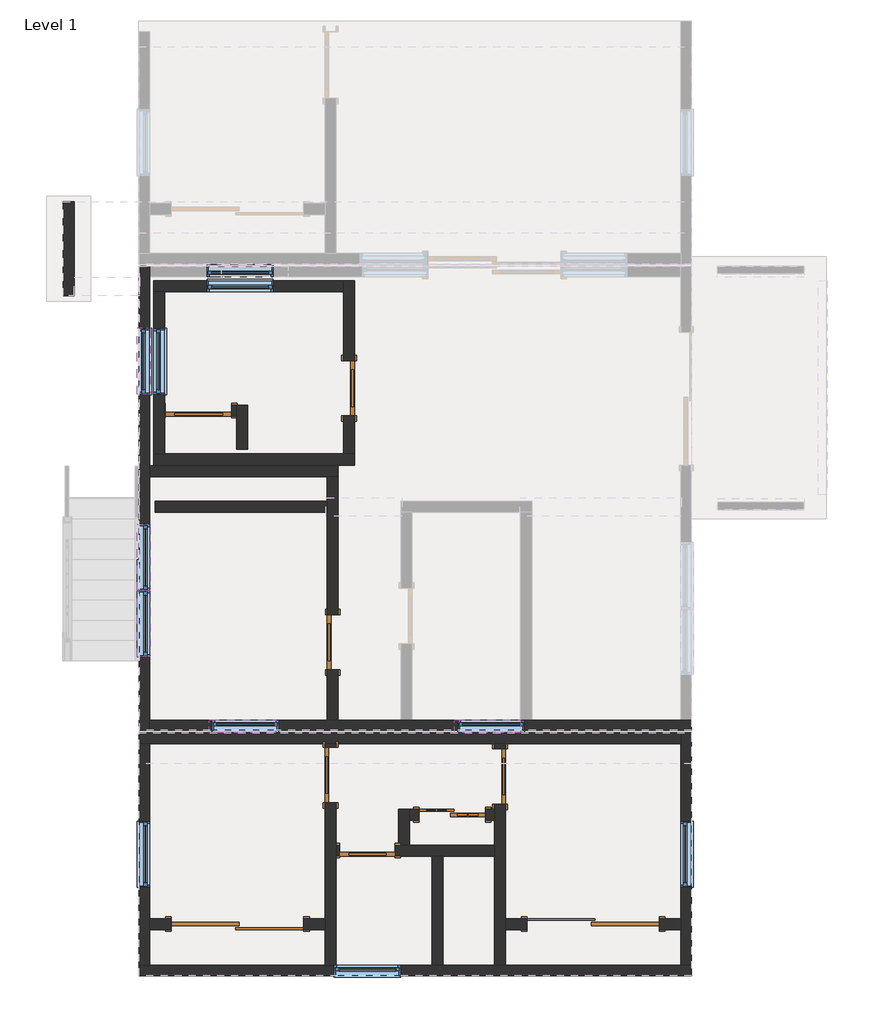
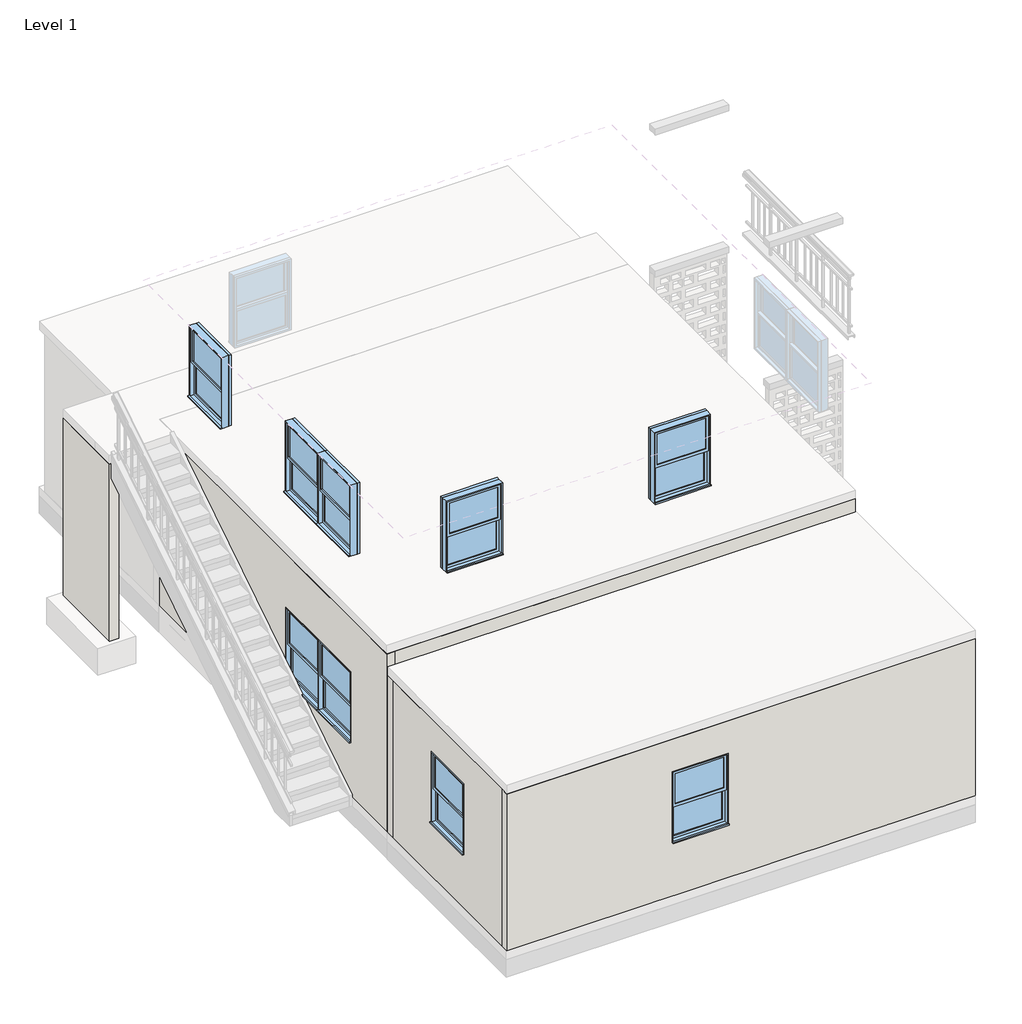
# One storey, part 1 of 3: 24 walls, 16 windows, 9 doors.
"""IFC4 building model written with IfcOpenShell, lengths in millimetres."""

from ifc_helpers import new_model, si_unit, frame, origin, place, context, project, spatial, polyline, outline, extrude, faceted_brep, transform, mapped, element, save
from components import door_de661ade, door_8a7407ed, door_d17baa25, door_dc43bb5d, door_789d9d7f, window_f4e95f5c, window_d6fe7540

model = new_model("IFC4")

# Units and contexts
model_context = context("Model", 3, world=origin())
ifc_project = project(units=[si_unit("LENGTHUNIT", "METRE", prefix="MILLI")], contexts=[model_context])

# Site, building, storey
site = spatial("IfcSite", under=ifc_project)
building = spatial("IfcBuilding", under=site)
storey = spatial("IfcBuildingStorey", under=building, Name="Level 1", Elevation=0.0)

# Doors
placement = place(None, origin())
door_shape = door_de661ade(model_context)
element("IfcDoor", 1, ObjectType="Single-Panel 1 : 30\" x 80\"", at=placement, inside=storey, context=model_context, shape_type="MappedRepresentation", body=[
    mapped(door_shape, transform((-8634.0790766, -20442.891375, -101.6), x_axis=(0.0, -1.0, 0.0), y_axis=(1.0, 0.0, 0.0), z_axis=(0.0, 0.0, 1.0))),
])
element("IfcDoor", 2, ObjectType="Single-Panel 1 : 30\" x 80\"", at=placement, inside=storey, context=model_context, shape_type="MappedRepresentation", body=[
    mapped(door_shape, transform((-8857.5990766, -23941.5763369, -101.6), x_axis=(0.0, 1.0, 0.0), y_axis=(-1.0, 0.0, 0.0), z_axis=(0.0, 0.0, 1.0))),
])
element("IfcDoor", 3, ObjectType="Single-Panel 1 : 30\" x 80\"", at=placement, inside=storey, context=model_context, shape_type="MappedRepresentation", body=[
    mapped(door_shape, transform((-8380.0790766, -26811.7763369, -101.6), x_axis=(-1.0, 0.0, 0.0), y_axis=(0.0, -1.0, 0.0), z_axis=(0.0, 0.0, 1.0))),
])
element("IfcDoor", 4, ObjectType="Single-Panel 1 : 30\" x 80\"", at=placement, inside=storey, context=model_context, shape_type="MappedRepresentation", body=[
    mapped(door_shape, transform((-6551.2790766, -25790.9824702, -101.6), x_axis=(0.0, -1.0, 0.0), y_axis=(1.0, 0.0, 0.0), z_axis=(0.0, 0.0, 1.0))),
])
door_2_shape = door_8a7407ed(model_context)
element("IfcDoor", 5, ObjectType="Single-Panel 1 : 30\" x 80\"", at=placement, inside=storey, context=model_context, shape_type="MappedRepresentation", body=[
    mapped(door_2_shape, transform((-8888.0790766, -25770.3763369, -101.6), x_axis=(0.0, -1.0, 0.0), y_axis=(1.0, 0.0, 0.0), z_axis=(0.0, 0.0, 1.0))),
])
door_3_shape = door_d17baa25(model_context)
element("IfcDoor", 6, ObjectType="Single-Panel 1 : 36\" x 80\"", at=placement, inside=storey, context=model_context, shape_type="MappedRepresentation", body=[
    mapped(door_3_shape, transform((-10707.9890766, -20750.7013369, -101.6), x_axis=(-1.0, 0.0, 0.0), y_axis=(0.0, -1.0, 0.0), z_axis=(0.0, 0.0, 1.0))),
])
door_4_shape = door_dc43bb5d(model_context)
element("IfcDoor", 7, ObjectType="Sliding-2 Panel 2 : 36\" x 78\" 2", at=placement, inside=storey, context=model_context, shape_type="MappedRepresentation", body=[
    mapped(door_4_shape, transform((-7211.6790766, -26446.5886036, -101.6), x_axis=(1.0, 0.0, 0.0), y_axis=(0.0, 1.0, 0.0), z_axis=(0.0, 0.0, 1.0))),
])
door_5_shape = door_789d9d7f(model_context)
element("IfcDoor", 8, ObjectType="Sliding-2 Panel 2 : 72\" x 78\"", at=placement, inside=storey, context=model_context, shape_type="MappedRepresentation", body=[
    mapped(door_5_shape, transform((-5268.5790766, -27951.6013369, -101.6), x_axis=(1.0, 0.0, 0.0), y_axis=(0.0, 1.0, 0.0), z_axis=(0.0, 0.0, 1.0))),
])
element("IfcDoor", 9, ObjectType="Sliding-2 Panel 2 : 72\" x 78\"", at=placement, inside=storey, context=model_context, shape_type="MappedRepresentation", body=[
    mapped(door_5_shape, transform((-10170.7790766, -27697.6013369, -101.6), x_axis=(-1.0, 0.0, 0.0), y_axis=(0.0, -1.0, 0.0), z_axis=(0.0, 0.0, 1.0))),
])

# Walls
element("IfcWall", 10, ObjectType="CWXX - 6in CIP Conc", at=placement, inside=storey, context=model_context, shape_type="Brep", body=[
    faceted_brep([(-11382.0415766, -21665.1013369, -101.6), (-8933.7990766, -21665.1013369, -101.6), (-8781.3990766, -21665.1013369, -101.6), (-8781.3990766, -21665.1013369, 2336.8), (-8933.7990766, -21665.1013369, 2336.8), (-11382.0415766, -21665.1013369, 2336.8), (-11382.0415766, -21512.7013369, -101.6), (-11382.0415766, -21512.7013369, 2336.8), (-8781.3990766, -21512.7013369, 2336.8), (-8781.3990766, -21512.7013369, -101.6)], [[[0, 1, 2, 3, 4, 5]], [[6, 7, 8, 9]], [[2, 1, 0, 6, 9]], [[5, 4, 3, 8, 7]], [[3, 2, 9, 8]], [[0, 5, 7, 6]]]),
])
element("IfcWall", 11, ObjectType="CWXX - 6in CIP Conc", at=placement, inside=storey, context=model_context, shape_type="Brep", body=[
    faceted_brep([(-8933.7990766, -21665.1013369, -101.6), (-8933.7990766, -22001.6513369, -101.6), (-8933.7990766, -22154.0513369, -101.6), (-8933.7990766, -23560.5763369, -101.6), (-8933.7990766, -23560.5763369, 1930.4), (-8933.7990766, -24322.5763369, 1930.4), (-8933.7990766, -24322.5763369, -101.6), (-8933.7990766, -25013.1388369, -101.6), (-8933.7990766, -25013.1388369, 2336.8), (-8933.7990766, -21665.1013369, 2336.8), (-8781.3990766, -23560.5763369, 1930.4), (-8781.3990766, -23560.5763369, -101.6), (-8781.3990766, -21665.1013369, -101.6), (-8781.3990766, -21665.1013369, 2336.8), (-8781.3990766, -25013.1388369, 2336.8), (-8781.3990766, -25013.1388369, -101.6), (-8781.3990766, -24322.5763369, -101.6), (-8781.3990766, -24322.5763369, 1930.4)], [[[0, 1, 2, 3, 4, 5, 6, 7, 8, 9]], [[10, 11, 12, 13, 14, 15, 16, 17]], [[16, 15, 7, 6]], [[12, 11, 3, 2, 1, 0]], [[9, 8, 14, 13]], [[0, 9, 13, 12]], [[4, 3, 11, 10]], [[5, 4, 10, 17]], [[6, 5, 17, 16]], [[8, 7, 15, 14]]]),
])
element("IfcWall", 12, ObjectType="CWXX - 6in CMU", at=placement, inside=storey, context=model_context, shape_type="Brep", body=[
    faceted_brep([(-11326.4790766, -19115.5763369, -101.6), (-11174.0790766, -19115.5763369, -101.6), (-8710.2790766, -19115.5763369, -101.6), (-8710.2790766, -19115.5763369, 2336.8), (-11174.0790766, -19115.5763369, 2336.8), (-11326.4790766, -19115.5763369, 2336.8), (-9676.4950766, -19115.5763369, 1965.5500159), (-9676.4950766, -19115.5763369, 746.3500159), (-10590.8950766, -19115.5763369, 746.3500159), (-10590.8950766, -19115.5763369, 1965.5500159), (-11326.4790766, -18963.1763369, -101.6), (-11326.4790766, -18963.1763369, 2336.8), (-8710.2790766, -18963.1763369, 2336.8), (-8710.2790766, -18963.1763369, -101.6), (-9676.4950766, -18963.1763369, 1965.5500159), (-10590.8950766, -18963.1763369, 1965.5500159), (-10590.8950766, -18963.1763369, 746.3500159), (-9676.4950766, -18963.1763369, 746.3500159)], [[[0, 1, 2, 3, 4, 5], [6, 7, 8, 9]], [[10, 11, 12, 13], [14, 15, 16, 17]], [[2, 1, 0, 10, 13]], [[5, 4, 3, 12, 11]], [[0, 5, 11, 10]], [[3, 2, 13, 12]], [[7, 6, 14, 17]], [[8, 7, 17, 16]], [[9, 8, 16, 15]], [[6, 9, 15, 14]]]),
])
element("IfcWall", 13, ObjectType="CWXX - 6in CMU", at=placement, inside=storey, context=model_context, shape_type="Brep", body=[
    faceted_brep([(-11174.0790766, -21347.6013369, -101.6), (-11174.0790766, -20826.9013369, -101.6), (-11174.0790766, -20674.5013369, -101.6), (-11174.0790766, -19115.5763369, -101.6), (-11174.0790766, -19115.5763369, 2336.8), (-11174.0790766, -20674.5013369, 2336.8), (-11174.0790766, -20826.9013369, 2336.8), (-11174.0790766, -21347.6013369, 2336.8), (-11174.0790766, -20530.0388369, 812.8), (-11174.0790766, -20530.0388369, 2032.0), (-11174.0790766, -19615.6388369, 2032.0), (-11174.0790766, -19615.6388369, 812.8), (-11326.4790766, -19115.5763369, -101.6), (-11326.4790766, -21347.6013369, -101.6), (-11326.4790766, -21347.6013369, 2336.8), (-11326.4790766, -19115.5763369, 2336.8), (-11326.4790766, -20530.0388369, 2032.0), (-11326.4790766, -20530.0388369, 812.8), (-11326.4790766, -19615.6388369, 812.8), (-11326.4790766, -19615.6388369, 2032.0)], [[[0, 1, 2, 3, 4, 5, 6, 7], [8, 9, 10, 11]], [[12, 13, 14, 15], [16, 17, 18, 19]], [[3, 2, 1, 0, 13, 12]], [[7, 6, 5, 4, 15, 14]], [[4, 3, 12, 15]], [[17, 16, 9, 8]], [[18, 17, 8, 11]], [[19, 18, 11, 10]], [[16, 19, 10, 9]], [[0, 7, 14, 13]]]),
])
element("IfcWall", 14, ObjectType="CWXX - 6in CIP Conc", at=placement, inside=storey, context=model_context, shape_type="Brep", body=[
    faceted_brep([(-8811.8790766, -28391.3388369, -101.6), (-8811.8790766, -26887.9763369, -101.6), (-8811.8790766, -26735.5763369, -101.6), (-8811.8790766, -26151.3763369, -101.6), (-8811.8790766, -26151.3763369, 1930.4), (-8811.8790766, -25389.3763369, 1930.4), (-8811.8790766, -25389.3763369, -101.6), (-8811.8790766, -25338.5763369, -101.6), (-8811.8790766, -25338.5763369, 2336.8), (-8811.8790766, -26735.5763369, 2336.8), (-8811.8790766, -26887.9763369, 2336.8), (-8811.8790766, -28391.3388369, 2336.8), (-8964.2790766, -26151.3763369, 1930.4), (-8964.2790766, -26151.3763369, -101.6), (-8964.2790766, -27748.4013369, -101.6), (-8964.2790766, -27900.8013369, -101.6), (-8964.2790766, -28391.3388369, -101.6), (-8964.2790766, -28391.3388369, 2336.8), (-8964.2790766, -27900.8013369, 2336.8), (-8964.2790766, -27748.4013369, 2336.8), (-8964.2790766, -25338.5763369, 2336.8), (-8964.2790766, -25338.5763369, -101.6), (-8964.2790766, -25389.3763369, -101.6), (-8964.2790766, -25389.3763369, 1930.4)], [[[0, 1, 2, 3, 4, 5, 6, 7, 8, 9, 10, 11]], [[12, 13, 14, 15, 16, 17, 18, 19, 20, 21, 22, 23]], [[22, 21, 7, 6]], [[16, 15, 14, 13, 3, 2, 1, 0]], [[11, 10, 9, 8, 20, 19, 18, 17]], [[4, 3, 13, 12]], [[5, 4, 12, 23]], [[6, 5, 23, 22]], [[0, 11, 17, 16]], [[8, 7, 21, 20]]]),
])
element("IfcWall", 15, ObjectType="CWXX - 6in CIP Conc", at=placement, inside=storey, context=model_context, shape_type="SweptSolid", body=[
    extrude(outline(polyline([(-7338.6790766, -26887.9763369), (-7338.6790766, -28391.3388369), (-7491.0790766, -28391.3388369), (-7491.0790766, -26887.9763369), (-7338.6790766, -26887.9763369)])), frame((0.0, 0.0, -101.6), z_axis=(0.0, 0.0, 1.0), x_axis=(1.0, 0.0, 0.0)), (0.0, 0.0, 1.0), 2438.4),
])
element("IfcWall", 16, ObjectType="CWXX - 6in CIP Conc", at=placement, inside=storey, context=model_context, shape_type="Brep", body=[
    faceted_brep([(-6475.0790766, -28391.3388369, -101.6), (-6475.0790766, -27900.8013369, -101.6), (-6475.0790766, -27748.4013369, -101.6), (-6475.0790766, -26171.9824702, -101.6), (-6475.0790766, -26171.9824702, 1930.4), (-6475.0790766, -25409.9824702, 1930.4), (-6475.0790766, -25409.9824702, -101.6), (-6475.0790766, -25338.5763369, -101.6), (-6475.0790766, -25338.5763369, 2336.8), (-6475.0790766, -27748.4013369, 2336.8), (-6475.0790766, -27900.8013369, 2336.8), (-6475.0790766, -28391.3388369, 2336.8), (-6627.4790766, -26171.9824702, 1930.4), (-6627.4790766, -26171.9824702, -101.6), (-6627.4790766, -26243.3886036, -101.6), (-6627.4790766, -26395.7886036, -101.6), (-6627.4790766, -26735.5763369, -101.6), (-6627.4790766, -26887.9763369, -101.6), (-6627.4790766, -28391.3388369, -101.6), (-6627.4790766, -28391.3388369, 2336.8), (-6627.4790766, -26887.9763369, 2336.8), (-6627.4790766, -26735.5763369, 2336.8), (-6627.4790766, -26395.7886036, 2336.8), (-6627.4790766, -26243.3886036, 2336.8), (-6627.4790766, -25338.5763369, 2336.8), (-6627.4790766, -25338.5763369, -101.6), (-6627.4790766, -25409.9824702, -101.6), (-6627.4790766, -25409.9824702, 1930.4)], [[[0, 1, 2, 3, 4, 5, 6, 7, 8, 9, 10, 11]], [[12, 13, 14, 15, 16, 17, 18, 19, 20, 21, 22, 23, 24, 25, 26, 27]], [[26, 25, 7, 6]], [[18, 17, 16, 15, 14, 13, 3, 2, 1, 0]], [[11, 10, 9, 8, 24, 23, 22, 21, 20, 19]], [[4, 3, 13, 12]], [[5, 4, 12, 27]], [[6, 5, 27, 26]], [[0, 11, 19, 18]], [[8, 7, 25, 24]]]),
])
element("IfcWall", 17, ObjectType="CWXX - 6in CIP Conc", at=placement, inside=storey, context=model_context, shape_type="Brep", body=[
    faceted_brep([(-8761.0790766, -26735.5763369, 1930.4), (-8761.0790766, -26735.5763369, -101.6), (-8811.8790766, -26735.5763369, -101.6), (-8811.8790766, -26735.5763369, 2336.8), (-7948.2790766, -26735.5763369, 2336.8), (-7795.8790766, -26735.5763369, 2336.8), (-6627.4790766, -26735.5763369, 2336.8), (-6627.4790766, -26735.5763369, -101.6), (-7795.8790766, -26735.5763369, -101.6), (-7948.2790766, -26735.5763369, -101.6), (-7999.0790766, -26735.5763369, -101.6), (-7999.0790766, -26735.5763369, 1930.4), (-8811.8790766, -26887.9763369, -101.6), (-8761.0790766, -26887.9763369, -101.6), (-8761.0790766, -26887.9763369, 1930.4), (-7999.0790766, -26887.9763369, 1930.4), (-7999.0790766, -26887.9763369, -101.6), (-7491.0790766, -26887.9763369, -101.6), (-7338.6790766, -26887.9763369, -101.6), (-6627.4790766, -26887.9763369, -101.6), (-6627.4790766, -26887.9763369, 2336.8), (-7338.6790766, -26887.9763369, 2336.8), (-7491.0790766, -26887.9763369, 2336.8), (-8811.8790766, -26887.9763369, 2336.8)], [[[0, 1, 2, 3, 4, 5, 6, 7, 8, 9, 10, 11]], [[12, 13, 14, 15, 16, 17, 18, 19, 20, 21, 22, 23]], [[2, 1, 13, 12]], [[10, 9, 8, 7, 19, 18, 17, 16]], [[6, 5, 4, 3, 23, 22, 21, 20]], [[7, 6, 20, 19]], [[3, 2, 12, 23]], [[14, 13, 1, 0]], [[15, 14, 0, 11]], [[16, 15, 11, 10]]]),
])
element("IfcWall", 18, ObjectType="CWXX - 6in CIP Conc", at=placement, inside=storey, context=model_context, shape_type="Brep", body=[
    faceted_brep([(-7948.2790766, -26243.3886036, -101.6), (-7948.2790766, -26735.5763369, -101.6), (-7948.2790766, -26735.5763369, 2336.8), (-7948.2790766, -26243.3886036, 2336.8), (-7795.8790766, -26243.3886036, -101.6), (-7795.8790766, -26243.3886036, 2336.8), (-7795.8790766, -26395.7886036, 2336.8), (-7795.8790766, -26735.5763369, 2336.8), (-7795.8790766, -26735.5763369, -101.6), (-7795.8790766, -26395.7886036, -101.6)], [[[0, 1, 2, 3]], [[4, 5, 6, 7, 8, 9]], [[1, 0, 4, 9, 8]], [[3, 2, 7, 6, 5]], [[2, 1, 8, 7]], [[0, 3, 5, 4]]]),
])
element("IfcWall", 19, ObjectType="CWXX - 6in CIP Conc", at=placement, inside=storey, context=model_context, shape_type="SweptSolid", body=[
    extrude(outline(polyline([(1879.6, -6754.4790766), (-101.6, -6754.4790766), (-101.6, -6627.4790766), (2336.8, -6627.4790766), (2336.8, -7795.8790766), (-101.6, -7795.8790766), (-101.6, -7668.8790766), (1879.6, -7668.8790766), (1879.6, -6754.4790766)])), frame((0.0, -26395.7886036, 0.0), z_axis=(0.0, 1.0, 0.0), x_axis=(0.0, 0.0, 1.0)), (0.0, 0.0, 1.0), 152.4),
])
element("IfcWall", 20, ObjectType="CWXX - 6in CIP Conc", at=placement, inside=storey, context=model_context, shape_type="SweptSolid", body=[
    extrude(outline(polyline([(2032.0, -4354.1790766), (-101.6, -4354.1790766), (-101.6, -4057.3165766), (2336.8, -4057.3165766), (2336.8, -6475.0790766), (-101.6, -6475.0790766), (-101.6, -6182.9790766), (2032.0, -6182.9790766), (2032.0, -4354.1790766)])), frame((0.0, -27900.8013369, 0.0), z_axis=(0.0, 1.0, 0.0), x_axis=(0.0, 0.0, 1.0)), (0.0, 0.0, 1.0), 152.4),
])
element("IfcWall", 21, ObjectType="CWXX - 6in CIP Conc", at=placement, inside=storey, context=model_context, shape_type="SweptSolid", body=[
    extrude(outline(polyline([(-101.6, -11382.0415766), (-101.6, -11085.1790766), (2032.0, -11085.1790766), (2032.0, -9256.3790766), (-101.6, -9256.3790766), (-101.6, -8964.2790766), (2336.8, -8964.2790766), (2336.8, -11382.0415766), (-101.6, -11382.0415766)])), frame((0.0, -27900.8013369, 0.0), z_axis=(0.0, 1.0, 0.0), x_axis=(0.0, 0.0, 1.0)), (0.0, 0.0, 1.0), 152.4),
])
element("IfcWall", 22, ObjectType="CWXX - 6in CIP Conc", at=placement, inside=storey, context=model_context, shape_type="Brep", body=[
    faceted_brep([(-10183.4790766, -20674.5013369, -101.6), (-10183.4790766, -20826.9013369, -101.6), (-10183.4790766, -21284.1013369, -101.6), (-10183.4790766, -21284.1013369, 2336.8), (-10183.4790766, -20826.9013369, 2336.8), (-10183.4790766, -20674.5013369, 2336.8), (-10031.0790766, -20674.5013369, -101.6), (-10031.0790766, -20674.5013369, 2336.8), (-10031.0790766, -21284.1013369, 2336.8), (-10031.0790766, -21284.1013369, -101.6)], [[[0, 1, 2, 3, 4, 5]], [[6, 7, 8, 9]], [[2, 1, 0, 6, 9]], [[3, 2, 9, 8]], [[5, 4, 3, 8, 7]], [[0, 5, 7, 6]]]),
])
element("IfcWall", 23, ObjectType="CWXX - 6in CIP Conc", at=placement, inside=storey, context=model_context, shape_type="SweptSolid", body=[
    extrude(outline(polyline([(-101.6, -11174.0790766), (-101.6, -11165.1890766), (1930.4, -11165.1890766), (1930.4, -10250.7890766), (-101.6, -10250.7890766), (-101.6, -10183.4790766), (2336.8, -10183.4790766), (2336.8, -11174.0790766), (-101.6, -11174.0790766)])), frame((0.0, -20826.9013369, 0.0), z_axis=(0.0, 1.0, 0.0), x_axis=(0.0, 0.0, 1.0)), (0.0, 0.0, 1.0), 152.4),
])
element("IfcWall", 24, ObjectType="CWXX - 6in CIP Conc", at=placement, inside=storey, context=model_context, shape_type="SweptSolid", body=[
    extrude(outline(polyline([(-8933.7990766, -22154.0513369), (-11308.6990766, -22154.0513369), (-11308.6990766, -22001.6513369), (-8933.7990766, -22001.6513369), (-8933.7990766, -22154.0513369)])), frame((0.0, 0.0, -101.6), z_axis=(0.0, 0.0, 1.0), x_axis=(1.0, 0.0, 0.0)), (0.0, 0.0, 1.0), 2794.0),
])
element("IfcWall", 25, ObjectType="CWXX - 6in CMU", at=placement, inside=storey, context=model_context, shape_type="Brep", body=[
    faceted_brep([(-4057.3165766, -25186.1763369, -101.6), (-11524.9165766, -25186.1763369, -101.6), (-11524.9165766, -25186.1763369, 2590.8), (-4057.3165766, -25186.1763369, 2590.8), (-4057.3165766, -25338.5763369, -101.6), (-4057.3165766, -25338.5763369, 2590.8), (-11382.0415766, -25338.5763369, 2590.8), (-11524.9165766, -25338.5763369, 2590.8), (-11524.9165766, -25338.5763369, -101.6), (-11382.0415766, -25338.5763369, -101.6), (-8964.2790766, -25338.5763369, -101.6), (-8811.8790766, -25338.5763369, -101.6), (-6627.4790766, -25338.5763369, -101.6), (-6475.0790766, -25338.5763369, -101.6)], [[[0, 1, 2, 3]], [[4, 5, 6, 7, 8, 9, 10, 11, 12, 13]], [[1, 0, 4, 13, 12, 11, 10, 9, 8]], [[3, 2, 7, 6, 5]], [[0, 3, 5, 4]], [[2, 1, 8, 7]]]),
])
element("IfcWall", 26, ObjectType="CWXX - 6in CIP Conc", at=placement, inside=storey, context=model_context, shape_type="SweptSolid", body=[
    extrude(outline(polyline([(-12574.2540766, -19168.0320791), (-12574.2540766, -17872.6320791), (-12421.8540766, -17872.6320791), (-12421.8540766, -19168.0320791), (-12574.2540766, -19168.0320791)])), frame((0.0, 0.0, -101.6), z_axis=(0.0, 0.0, 1.0), x_axis=(1.0, 0.0, 0.0)), (0.0, 0.0, 1.0), 3048.0),
])
element("IfcWall", 27, ObjectType="CWXX - 6in CMU", at=placement, inside=storey, context=model_context, shape_type="Brep", body=[
    faceted_brep([(-8557.8790766, -21347.6013369, -101.6), (-8710.2790766, -21347.6013369, -101.6), (-11174.0790766, -21347.6013369, -101.6), (-11326.4790766, -21347.6013369, -101.6), (-11326.4790766, -21347.6013369, 2336.8), (-11174.0790766, -21347.6013369, 2336.8), (-8710.2790766, -21347.6013369, 2336.8), (-8557.8790766, -21347.6013369, 2336.8), (-8557.8790766, -21500.0013369, -101.6), (-8557.8790766, -21500.0013369, 2336.8), (-11326.4790766, -21500.0013369, 2336.8), (-11326.4790766, -21500.0013369, -101.6)], [[[0, 1, 2, 3, 4, 5, 6, 7]], [[8, 9, 10, 11]], [[3, 2, 1, 0, 8, 11]], [[7, 6, 5, 4, 10, 9]], [[4, 3, 11, 10]], [[0, 7, 9, 8]]]),
])
element("IfcWall", 28, ObjectType="CWXX - 6in CMU", at=placement, inside=storey, context=model_context, shape_type="Brep", body=[
    faceted_brep([(-8710.2790766, -20823.891375, 1930.4), (-8710.2790766, -20823.891375, -101.6), (-8710.2790766, -21347.6013369, -101.6), (-8710.2790766, -21347.6013369, 2336.8), (-8710.2790766, -19115.5763369, 2336.8), (-8710.2790766, -18963.1763369, 2336.8), (-8710.2790766, -18963.1763369, -101.6), (-8710.2790766, -19115.5763369, -101.6), (-8710.2790766, -20061.891375, -101.6), (-8710.2790766, -20061.891375, 1930.4), (-8557.8790766, -21347.6013369, -101.6), (-8557.8790766, -20823.891375, -101.6), (-8557.8790766, -20823.891375, 1930.4), (-8557.8790766, -20061.891375, 1930.4), (-8557.8790766, -20061.891375, -101.6), (-8557.8790766, -18963.1763369, -101.6), (-8557.8790766, -18963.1763369, 2336.8), (-8557.8790766, -21347.6013369, 2336.8)], [[[0, 1, 2, 3, 4, 5, 6, 7, 8, 9]], [[10, 11, 12, 13, 14, 15, 16, 17]], [[2, 1, 11, 10]], [[8, 7, 6, 15, 14]], [[5, 4, 3, 17, 16]], [[12, 11, 1, 0]], [[13, 12, 0, 9]], [[14, 13, 9, 8]], [[6, 5, 16, 15]], [[3, 2, 10, 17]]]),
])
element("IfcWall", 29, ObjectType="6\" CMU", at=placement, inside=storey, context=model_context, shape_type="Brep", body=[
    faceted_brep([(-11524.9165766, -28534.2138369, -101.6), (-3914.4415766, -28534.2138369, -101.6), (-3914.4415766, -28534.2138369, 2590.8), (-11524.9165766, -28534.2138369, 2590.8), (-8837.2790766, -28534.2138369, 2032.0), (-7922.8790766, -28534.2138369, 2032.0), (-7922.8790766, -28534.2138369, 812.8), (-8837.2790766, -28534.2138369, 812.8), (-11524.9165766, -28391.3388369, -101.6), (-11524.9165766, -28391.3388369, 2590.8), (-11382.0415766, -28391.3388369, 2590.8), (-4057.3165766, -28391.3388369, 2590.8), (-3914.4415766, -28391.3388369, 2590.8), (-3914.4415766, -28391.3388369, -101.6), (-4057.3165766, -28391.3388369, -101.6), (-6475.0790766, -28391.3388369, -101.6), (-6627.4790766, -28391.3388369, -101.6), (-7338.6790766, -28391.3388369, -101.6), (-7491.0790766, -28391.3388369, -101.6), (-8811.8790766, -28391.3388369, -101.6), (-8964.2790766, -28391.3388369, -101.6), (-11382.0415766, -28391.3388369, -101.6), (-8837.2790766, -28391.3388369, 2032.0), (-8837.2790766, -28391.3388369, 812.8), (-7922.8790766, -28391.3388369, 812.8), (-7922.8790766, -28391.3388369, 2032.0)], [[[0, 1, 2, 3], [4, 5, 6, 7]], [[8, 9, 10, 11, 12, 13, 14, 15, 16, 17, 18, 19, 20, 21], [22, 23, 24, 25]], [[1, 0, 8, 21, 20, 19, 18, 17, 16, 15, 14, 13]], [[3, 2, 12, 11, 10, 9]], [[2, 1, 13, 12]], [[0, 3, 9, 8]], [[23, 22, 4, 7]], [[24, 23, 7, 6]], [[25, 24, 6, 5]], [[22, 25, 5, 4]]]),
])
element("IfcWall", 30, ObjectType="6\" CMU", at=placement, inside=storey, context=model_context, shape_type="Brep", body=[
    faceted_brep([(-3914.4415766, -28391.3388369, -101.6), (-3914.4415766, -25186.1763369, -101.6), (-3914.4415766, -25186.1763369, 2590.8), (-3914.4415766, -28391.3388369, 2590.8), (-3914.4415766, -27319.7763369, 2032.0), (-3914.4415766, -26405.3763369, 2032.0), (-3914.4415766, -26405.3763369, 812.8), (-3914.4415766, -27319.7763369, 812.8), (-4057.3165766, -28391.3388369, -101.6), (-4057.3165766, -28391.3388369, 2590.8), (-4057.3165766, -25338.5763369, 2590.8), (-4057.3165766, -25186.1763369, 2590.8), (-4057.3165766, -25186.1763369, -101.6), (-4057.3165766, -25338.5763369, -101.6), (-4057.3165766, -27748.4013369, -101.6), (-4057.3165766, -27900.8013369, -101.6), (-4057.3165766, -27319.7763369, 2032.0), (-4057.3165766, -27319.7763369, 812.8), (-4057.3165766, -26405.3763369, 812.8), (-4057.3165766, -26405.3763369, 2032.0)], [[[0, 1, 2, 3], [4, 5, 6, 7]], [[8, 9, 10, 11, 12, 13, 14, 15], [16, 17, 18, 19]], [[1, 0, 8, 15, 14, 13, 12]], [[3, 2, 11, 10, 9]], [[0, 3, 9, 8]], [[2, 1, 12, 11]], [[17, 16, 4, 7]], [[18, 17, 7, 6]], [[19, 18, 6, 5]], [[16, 19, 5, 4]]]),
])
element("IfcWall", 31, ObjectType="6\" CMU", at=placement, inside=storey, context=model_context, shape_type="Brep", body=[
    faceted_brep([(-11524.9165766, -25338.5763369, -101.6), (-11524.9165766, -28391.3388369, -101.6), (-11524.9165766, -28391.3388369, 2590.8), (-11524.9165766, -25338.5763369, 2590.8), (-11524.9165766, -26405.3763369, 2032.0), (-11524.9165766, -27319.7763369, 2032.0), (-11524.9165766, -27319.7763369, 812.8), (-11524.9165766, -26405.3763369, 812.8), (-11382.0415766, -25338.5763369, -101.6), (-11382.0415766, -25338.5763369, 2590.8), (-11382.0415766, -28391.3388369, 2590.8), (-11382.0415766, -28391.3388369, -101.6), (-11382.0415766, -27900.8013369, -101.6), (-11382.0415766, -27748.4013369, -101.6), (-11382.0415766, -26405.3763369, 2032.0), (-11382.0415766, -26405.3763369, 812.8), (-11382.0415766, -27319.7763369, 812.8), (-11382.0415766, -27319.7763369, 2032.0)], [[[0, 1, 2, 3], [4, 5, 6, 7]], [[8, 9, 10, 11, 12, 13], [14, 15, 16, 17]], [[1, 0, 8, 13, 12, 11]], [[3, 2, 10, 9]], [[2, 1, 11, 10]], [[0, 3, 9, 8]], [[15, 14, 4, 7]], [[16, 15, 7, 6]], [[17, 16, 6, 5]], [[14, 17, 5, 4]]]),
])
element("IfcWall", 32, ObjectType="6\" CMU", at=placement, inside=storey, context=model_context, shape_type="Brep", body=[
    faceted_brep([(-11524.9165766, -18764.7388369, -101.6), (-11524.9165766, -25156.0138369, -101.6), (-11524.9165766, -25156.0138369, 2946.4), (-11524.9165766, -18764.7388369, 2946.4), (-11524.9165766, -24144.7763369, 812.8), (-11524.9165766, -22315.9763369, 812.8), (-11524.9165766, -22315.9763369, 2032.0), (-11524.9165766, -24144.7763369, 2032.0), (-11524.9165766, -20530.0388369, 2032.0), (-11524.9165766, -20530.0388369, 812.8), (-11524.9165766, -19615.6388369, 812.8), (-11524.9165766, -19615.6388369, 2032.0), (-11382.0415766, -25156.0138369, -101.6), (-11382.0415766, -25013.1388369, -101.6), (-11382.0415766, -21665.1013369, -101.6), (-11382.0415766, -21512.7013369, -101.6), (-11382.0415766, -18907.6138369, -101.6), (-11382.0415766, -18764.7388369, -101.6), (-11382.0415766, -18764.7388369, 2946.4), (-11382.0415766, -18907.6138369, 2946.4), (-11382.0415766, -25013.1388369, 2946.4), (-11382.0415766, -25156.0138369, 2946.4), (-11382.0415766, -24144.7763369, 2032.0), (-11382.0415766, -22315.9763369, 2032.0), (-11382.0415766, -22315.9763369, 812.8), (-11382.0415766, -24144.7763369, 812.8), (-11382.0415766, -20530.0388369, 2032.0), (-11382.0415766, -19615.6388369, 2032.0), (-11382.0415766, -19615.6388369, 812.8), (-11382.0415766, -20530.0388369, 812.8)], [[[0, 1, 2, 3], [4, 5, 6, 7], [8, 9, 10, 11]], [[12, 13, 14, 15, 16, 17, 18, 19, 20, 21], [22, 23, 24, 25], [26, 27, 28, 29]], [[1, 0, 17, 16, 15, 14, 13, 12]], [[3, 2, 21, 20, 19, 18]], [[24, 23, 6, 5]], [[24, 5, 4, 25]], [[22, 7, 6, 23]], [[25, 4, 7, 22]], [[2, 1, 12, 21]], [[0, 3, 18, 17]], [[9, 8, 26, 29]], [[10, 9, 29, 28]], [[11, 10, 28, 27]], [[8, 11, 27, 26]]]),
])
element("IfcWall", 33, ObjectType="6\" CMU", at=placement, inside=storey, context=model_context, shape_type="Brep", body=[
    faceted_brep([(-11382.0415766, -25156.0138369, -101.6), (-3914.4415766, -25156.0138369, -101.6), (-3914.4415766, -25156.0138369, 2946.4), (-11382.0415766, -25156.0138369, 2946.4), (-7130.399102, -25156.0138369, 2032.0), (-6215.999102, -25156.0138369, 2032.0), (-6215.999102, -25156.0138369, 812.8), (-7130.399102, -25156.0138369, 812.8), (-10520.0290766, -25156.0138369, 2032.0), (-9605.6290766, -25156.0138369, 2032.0), (-9605.6290766, -25156.0138369, 812.8), (-10520.0290766, -25156.0138369, 812.8), (-11382.0415766, -25013.1388369, -101.6), (-11382.0415766, -25013.1388369, 2946.4), (-4057.3165766, -25013.1388369, 2946.4), (-3914.4415766, -25013.1388369, 2946.4), (-3914.4415766, -25013.1388369, -101.6), (-4057.3165766, -25013.1388369, -101.6), (-6114.399102, -25013.1388369, -101.6), (-6266.799102, -25013.1388369, -101.6), (-7765.3990766, -25013.1388369, -101.6), (-7917.7990766, -25013.1388369, -101.6), (-8781.3990766, -25013.1388369, -101.6), (-8933.7990766, -25013.1388369, -101.6), (-7130.399102, -25013.1388369, 2032.0), (-7130.399102, -25013.1388369, 812.8), (-6215.999102, -25013.1388369, 812.8), (-6215.999102, -25013.1388369, 2032.0), (-10520.0290766, -25013.1388369, 2032.0), (-10520.0290766, -25013.1388369, 812.8), (-9605.6290766, -25013.1388369, 812.8), (-9605.6290766, -25013.1388369, 2032.0)], [[[0, 1, 2, 3], [4, 5, 6, 7], [8, 9, 10, 11]], [[12, 13, 14, 15, 16, 17, 18, 19, 20, 21, 22, 23], [24, 25, 26, 27], [28, 29, 30, 31]], [[1, 0, 12, 23, 22, 21, 20, 19, 18, 17, 16]], [[3, 2, 15, 14, 13]], [[2, 1, 16, 15]], [[25, 24, 4, 7]], [[26, 25, 7, 6]], [[27, 26, 6, 5]], [[24, 27, 5, 4]], [[0, 3, 13, 12]], [[29, 28, 8, 11]], [[30, 29, 11, 10]], [[31, 30, 10, 9]], [[28, 31, 9, 8]]]),
])

# Windows
window_shape = window_f4e95f5c(model_context)
element("IfcWindow", 34, ObjectType="Double Hung : 36\" x 48\"", at=placement, inside=storey, context=model_context, shape_type="MappedRepresentation", body=[
    mapped(window_shape, transform((-8380.0790766, -28462.7763369, -101.6), x_axis=(-1.0, 0.0, 0.0), y_axis=(0.0, -1.0, 0.0), z_axis=(0.0, 0.0, 1.0))),
])
element("IfcWindow", 35, ObjectType="Double Hung : 36\" x 48\"", at=placement, inside=storey, context=model_context, shape_type="MappedRepresentation", body=[
    mapped(window_shape, transform((-3985.8790766, -26862.5763369, -101.6), x_axis=(0.0, -1.0, 0.0), y_axis=(1.0, 0.0, 0.0), z_axis=(0.0, 0.0, 1.0))),
])
element("IfcWindow", 36, ObjectType="Double Hung : 36\" x 48\"", at=placement, inside=storey, context=model_context, shape_type="MappedRepresentation", body=[
    mapped(window_shape, transform((-11453.4790766, -26862.5763369, -101.6), x_axis=(0.0, 1.0, 0.0), y_axis=(-1.0, 0.0, 0.0), z_axis=(0.0, 0.0, 1.0))),
])
element("IfcWindow", 37, ObjectType="Double Hung : 36\" x 48\"", at=placement, inside=storey, context=model_context, shape_type="MappedRepresentation", body=[
    mapped(window_shape, transform((-6673.199102, -25084.5763369, -101.6), x_axis=(-1.0, 0.0, 0.0), y_axis=(0.0, -1.0, 0.0), z_axis=(0.0, 0.0, 1.0))),
])
element("IfcWindow", 38, ObjectType="Double Hung : 36\" x 48\"", at=placement, inside=storey, context=model_context, shape_type="MappedRepresentation", body=[
    mapped(window_shape, transform((-11453.4790766, -22773.1763369, -101.6), x_axis=(0.0, 1.0, 0.0), y_axis=(-1.0, 0.0, 0.0), z_axis=(0.0, 0.0, 1.0))),
])
element("IfcWindow", 39, ObjectType="Double Hung : 36\" x 48\"", at=placement, inside=storey, context=model_context, shape_type="MappedRepresentation", body=[
    mapped(window_shape, transform((-11453.4790766, -23687.5763369, -101.6), x_axis=(0.0, 1.0, 0.0), y_axis=(-1.0, 0.0, 0.0), z_axis=(0.0, 0.0, 1.0))),
])
element("IfcWindow", 40, ObjectType="Double Hung : 36\" x 48\"", at=placement, inside=storey, context=model_context, shape_type="MappedRepresentation", body=[
    mapped(window_shape, transform((-11453.4790766, -20072.8388369, -101.6), x_axis=(0.0, -1.0, 0.0), y_axis=(1.0, 0.0, 0.0), z_axis=(0.0, 0.0, 1.0))),
])
element("IfcWindow", 41, ObjectType="Double Hung : 36\" x 48\"", at=placement, inside=storey, context=model_context, shape_type="MappedRepresentation", body=[
    mapped(window_shape, transform((-10133.6950766, -18836.1763369, -168.0499841), x_axis=(1.0, 0.0, 0.0), y_axis=(0.0, 1.0, 0.0), z_axis=(0.0, 0.0, 1.0))),
])
element("IfcWindow", 42, ObjectType="Double Hung : 36\" x 48\"", at=placement, inside=storey, context=model_context, shape_type="MappedRepresentation", body=[
    mapped(window_shape, transform((-10062.8290766, -25084.5763369, -101.6), x_axis=(-1.0, 0.0, 0.0), y_axis=(0.0, -1.0, 0.0), z_axis=(0.0, 0.0, 1.0))),
])
window_2_shape = window_d6fe7540(model_context)
element("IfcWindow", 43, ObjectType="Double Hung : 36\" x 48\"", at=placement, inside=storey, context=model_context, shape_type="MappedRepresentation", body=[
    mapped(window_2_shape, transform((-11250.2790766, -20072.8388369, -101.6), x_axis=(0.0, -1.0, 0.0), y_axis=(1.0, 0.0, 0.0), z_axis=(0.0, 0.0, 1.0))),
])
element("IfcWindow", 44, ObjectType="Double Hung : 36\" x 48\"", at=placement, inside=storey, context=model_context, shape_type="MappedRepresentation", body=[
    mapped(window_2_shape, transform((-10133.6950766, -19039.3763369, -168.0499841), x_axis=(1.0, 0.0, 0.0), y_axis=(0.0, 1.0, 0.0), z_axis=(0.0, 0.0, 1.0))),
])
element("IfcWindow", 45, ObjectType="Double Hung : 36\" x 48\"", at=placement, inside=storey, context=model_context, shape_type="MappedRepresentation", body=[
    mapped(window_2_shape, transform((-6723.999102, -25084.5763369, 3098.8), x_axis=(-1.0, 0.0, 0.0), y_axis=(0.0, -1.0, 0.0), z_axis=(0.0, 0.0, 1.0))),
])
element("IfcWindow", 46, ObjectType="Double Hung : 36\" x 48\"", at=placement, inside=storey, context=model_context, shape_type="MappedRepresentation", body=[
    mapped(window_2_shape, transform((-11453.4790766, -22773.1763369, 3098.8), x_axis=(0.0, 1.0, 0.0), y_axis=(-1.0, 0.0, 0.0), z_axis=(0.0, 0.0, 1.0))),
])
element("IfcWindow", 47, ObjectType="Double Hung : 36\" x 48\"", at=placement, inside=storey, context=model_context, shape_type="MappedRepresentation", body=[
    mapped(window_2_shape, transform((-11453.4790766, -20068.0763369, 3098.8), x_axis=(0.0, 1.0, 0.0), y_axis=(-1.0, 0.0, 0.0), z_axis=(0.0, 0.0, 1.0))),
])
element("IfcWindow", 48, ObjectType="Double Hung : 36\" x 48\"", at=placement, inside=storey, context=model_context, shape_type="MappedRepresentation", body=[
    mapped(window_2_shape, transform((-11453.4790766, -23687.5863369, 3098.8), x_axis=(0.0, 1.0, 0.0), y_axis=(-1.0, 0.0, 0.0), z_axis=(0.0, 0.0, 1.0))),
])
element("IfcWindow", 49, ObjectType="Double Hung : 36\" x 48\"", at=placement, inside=storey, context=model_context, shape_type="MappedRepresentation", body=[
    mapped(window_2_shape, transform((-10102.199102, -25084.5763369, 3098.8), x_axis=(-1.0, 0.0, 0.0), y_axis=(0.0, -1.0, 0.0), z_axis=(0.0, 0.0, 1.0))),
])

save(model, "model.ifc")
